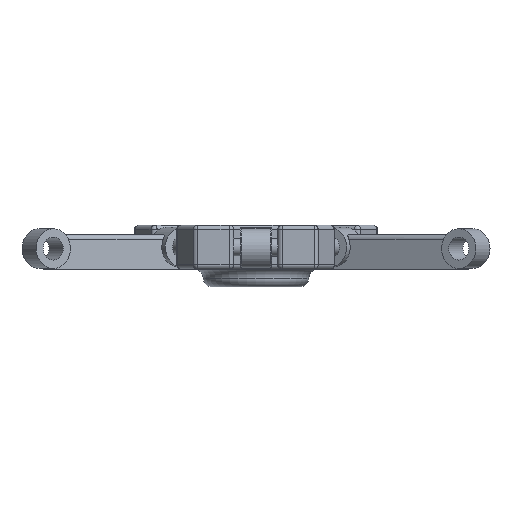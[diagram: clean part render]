
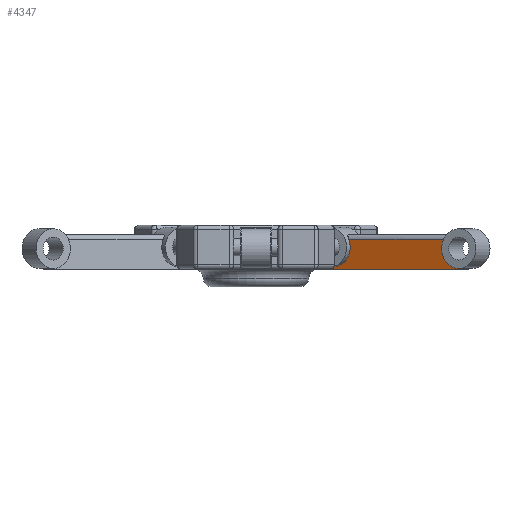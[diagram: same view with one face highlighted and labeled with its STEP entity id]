
A CAD part, front view. The second image highlights one B-rep face of the part: STEP entity #4347.
In plain terms, the highlighted planar face has unit normal (-0.5, -0.866, 0).
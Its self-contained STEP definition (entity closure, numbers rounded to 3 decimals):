
#213=PLANE('',#4895);
#474=LINE('',#7501,#792);
#480=LINE('',#7513,#798);
#481=LINE('',#7515,#799);
#483=LINE('',#7522,#801);
#792=VECTOR('',#6035,10.);
#798=VECTOR('',#6043,10.);
#799=VECTOR('',#6046,10.);
#801=VECTOR('',#6052,10.);
#1209=FACE_OUTER_BOUND('',#1487,.T.);
#1487=EDGE_LOOP('',(#3774,#3775,#3776,#3777,#3778,#3779,#3780));
#1760=CIRCLE('',#4896,2.25);
#1761=CIRCLE('',#4897,2.25);
#1762=CIRCLE('',#4898,2.25);
#2126=VERTEX_POINT('',#7497);
#2128=VERTEX_POINT('',#7500);
#2131=VERTEX_POINT('',#7507);
#2133=VERTEX_POINT('',#7511);
#2134=VERTEX_POINT('',#7518);
#2135=VERTEX_POINT('',#7519);
#2136=VERTEX_POINT('',#7521);
#2694=EDGE_CURVE('',#2126,#2128,#474,.T.);
#2700=EDGE_CURVE('',#2131,#2133,#480,.F.);
#2701=EDGE_CURVE('',#2128,#2133,#481,.T.);
#2703=EDGE_CURVE('',#2134,#2135,#1760,.T.);
#2704=EDGE_CURVE('',#2136,#2134,#483,.T.);
#2705=EDGE_CURVE('',#2131,#2136,#1761,.T.);
#2706=EDGE_CURVE('',#2135,#2126,#1762,.T.);
#3774=ORIENTED_EDGE('',*,*,#2703,.F.);
#3775=ORIENTED_EDGE('',*,*,#2704,.F.);
#3776=ORIENTED_EDGE('',*,*,#2705,.F.);
#3777=ORIENTED_EDGE('',*,*,#2700,.T.);
#3778=ORIENTED_EDGE('',*,*,#2701,.F.);
#3779=ORIENTED_EDGE('',*,*,#2694,.F.);
#3780=ORIENTED_EDGE('',*,*,#2706,.F.);
#4347=ADVANCED_FACE('',(#1209),#213,.T.);
#4895=AXIS2_PLACEMENT_3D('',#7517,#6048,#6049);
#4896=AXIS2_PLACEMENT_3D('',#7520,#6050,#6051);
#4897=AXIS2_PLACEMENT_3D('',#7523,#6053,#6054);
#4898=AXIS2_PLACEMENT_3D('',#7524,#6055,#6056);
#6035=DIRECTION('',(0.,0.,-1.));
#6043=DIRECTION('',(0.,0.,1.));
#6046=DIRECTION('',(-0.866,0.5,0.));
#6048=DIRECTION('center_axis',(-0.5,-0.866,0.));
#6049=DIRECTION('ref_axis',(0.866,-0.5,0.));
#6050=DIRECTION('center_axis',(-0.5,-0.866,0.));
#6051=DIRECTION('ref_axis',(0.866,-0.5,0.));
#6052=DIRECTION('',(0.866,-0.5,0.));
#6053=DIRECTION('center_axis',(-0.5,-0.866,0.));
#6054=DIRECTION('ref_axis',(0.866,-0.5,0.));
#6055=DIRECTION('center_axis',(-0.5,-0.866,0.));
#6056=DIRECTION('ref_axis',(0.866,-0.5,0.));
#7497=CARTESIAN_POINT('',(23.089,-14.485,0.101));
#7500=CARTESIAN_POINT('',(23.089,-14.485,0.));
#7501=CARTESIAN_POINT('',(23.089,-14.485,1.668));
#7507=CARTESIAN_POINT('',(8.831,-6.254,0.25));
#7511=CARTESIAN_POINT('',(8.831,-6.254,0.));
#7513=CARTESIAN_POINT('',(8.831,-6.254,1.668));
#7515=CARTESIAN_POINT('',(14.136,-9.316,0.));
#7517=CARTESIAN_POINT('Origin',(18.141,-11.629,2.418));
#7518=CARTESIAN_POINT('',(21.592,-13.621,3.418));
#7519=CARTESIAN_POINT('',(21.353,-13.483,2.338));
#7520=CARTESIAN_POINT('Origin',(23.301,-14.608,2.338));
#7521=CARTESIAN_POINT('',(10.52,-7.228,3.418));
#7522=CARTESIAN_POINT('',(22.147,-13.941,3.418));
#7523=CARTESIAN_POINT('Origin',(8.742,-6.202,2.497));
#7524=CARTESIAN_POINT('Origin',(23.301,-14.608,2.338));
